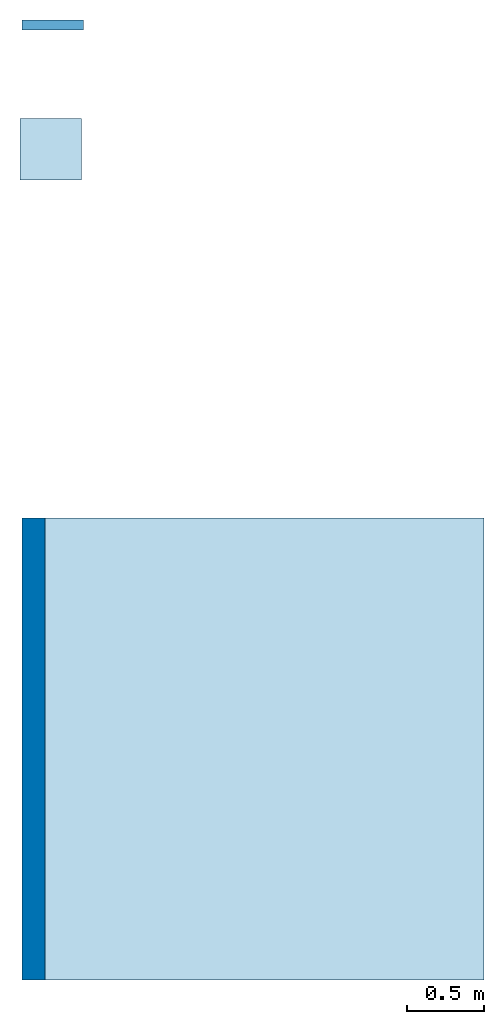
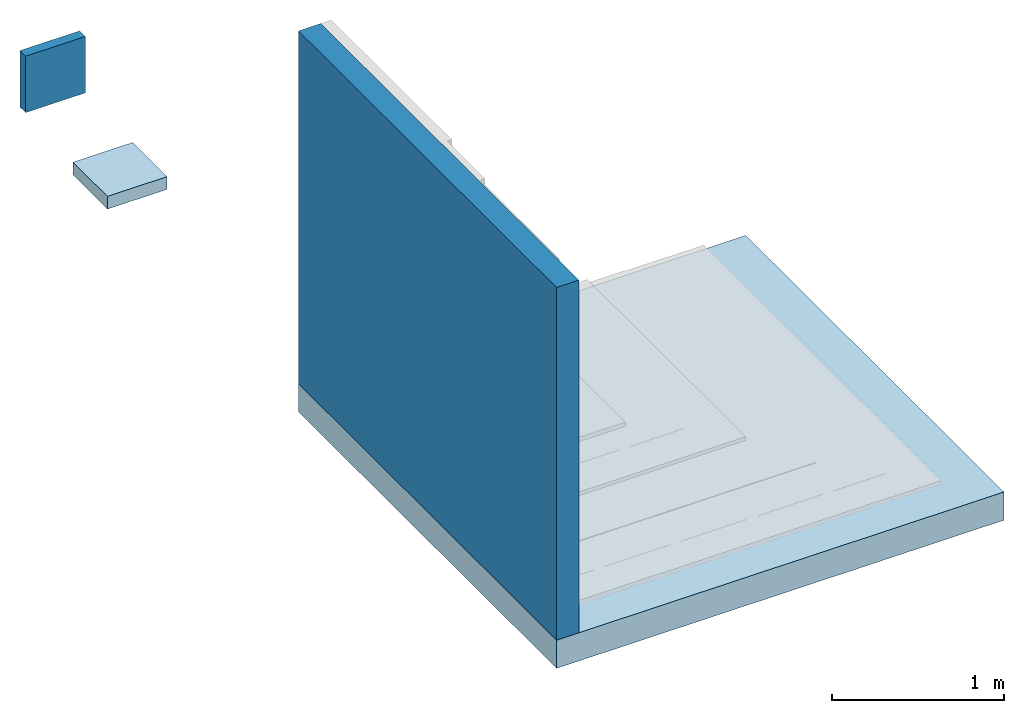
# One storey, part 1 of 2: 2 slabs, 2 walls.
"""IFC2X3 building model written with IfcOpenShell, lengths in metres."""

from ifc_helpers import new_model, entity, si_unit, converted_unit, derived_unit, direction, frame, frame_2d, origin, origin_2d_with_axis, place, context, subcontext, project, spatial, rectangle, extrude, material, layer, layer_set, layer_usage, type_object, element, save


model = new_model("IFC2X3")

# Units and contexts
model_context = context("Model", 3, precision=1e-05, world=origin(), true_north=direction((6.123031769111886e-17, 1.0)))
body_context = subcontext(model_context, "Body", "Model", "MODEL_VIEW")
ifc_project = project(units=[si_unit("LENGTHUNIT", "METRE"), si_unit("AREAUNIT", "SQUARE_METRE"), si_unit("VOLUMEUNIT", "CUBIC_METRE"), converted_unit("PLANEANGLEUNIT", "DEGREE", entity("IfcRatioMeasure", 0.017453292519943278), si_unit("PLANEANGLEUNIT", "RADIAN"), dimensions=[0, 0, 0, 0, 0, 0, 0]), si_unit("MASSUNIT", "GRAM", prefix="KILO"), derived_unit("MASSDENSITYUNIT", [(si_unit("MASSUNIT", "GRAM", prefix="KILO"), 1), (si_unit("LENGTHUNIT", "METRE"), -3)]), derived_unit("IONCONCENTRATIONUNIT", [(si_unit("MASSUNIT", "GRAM", prefix="KILO"), 1), (si_unit("LENGTHUNIT", "METRE"), -3)]), derived_unit("MOMENTOFINERTIAUNIT", [(si_unit("LENGTHUNIT", "METRE"), 4)]), si_unit("TIMEUNIT", "SECOND"), si_unit("FREQUENCYUNIT", "HERTZ"), si_unit("THERMODYNAMICTEMPERATUREUNIT", "DEGREE_CELSIUS"), derived_unit("THERMALTRANSMITTANCEUNIT", [(si_unit("MASSUNIT", "GRAM", prefix="KILO"), 1), (si_unit("THERMODYNAMICTEMPERATUREUNIT", "KELVIN"), -1), (si_unit("TIMEUNIT", "SECOND"), -3)]), derived_unit("THERMALCONDUCTANCEUNIT", [(si_unit("MASSUNIT", "GRAM", prefix="KILO"), 1), (si_unit("THERMODYNAMICTEMPERATUREUNIT", "KELVIN"), -1), (si_unit("TIMEUNIT", "SECOND"), -3), (si_unit("LENGTHUNIT", "METRE"), 1)]), derived_unit("VOLUMETRICFLOWRATEUNIT", [(si_unit("LENGTHUNIT", "METRE"), 3), (si_unit("TIMEUNIT", "SECOND"), -1)]), derived_unit("MASSFLOWRATEUNIT", [(si_unit("MASSUNIT", "GRAM", prefix="KILO"), 1), (si_unit("TIMEUNIT", "SECOND"), -1)]), derived_unit("ROTATIONALFREQUENCYUNIT", [(si_unit("TIMEUNIT", "SECOND"), -1)]), si_unit("ELECTRICCURRENTUNIT", "AMPERE"), si_unit("ELECTRICVOLTAGEUNIT", "VOLT"), si_unit("POWERUNIT", "WATT"), si_unit("FORCEUNIT", "NEWTON", prefix="KILO"), si_unit("ILLUMINANCEUNIT", "LUX"), si_unit("LUMINOUSFLUXUNIT", "LUMEN"), si_unit("LUMINOUSINTENSITYUNIT", "CANDELA"), derived_unit("USERDEFINED", [(si_unit("MASSUNIT", "GRAM", prefix="KILO"), -1), (si_unit("LENGTHUNIT", "METRE"), -2), (si_unit("TIMEUNIT", "SECOND"), 3), (si_unit("LUMINOUSFLUXUNIT", "LUMEN"), 1)]), derived_unit("USERDEFINED", [(si_unit("MASSUNIT", "GRAM", prefix="KILO"), 1), (si_unit("TIMEUNIT", "SECOND"), -3), (si_unit("LENGTHUNIT", "METRE"), 3), (si_unit("ELECTRICCURRENTUNIT", "AMPERE"), -2)]), derived_unit("SOUNDPOWERUNIT", [(si_unit("MASSUNIT", "GRAM", prefix="KILO"), 1), (si_unit("TIMEUNIT", "SECOND"), -3), (si_unit("LENGTHUNIT", "METRE"), 2)]), derived_unit("SOUNDPRESSUREUNIT", [(si_unit("MASSUNIT", "GRAM", prefix="KILO"), 1), (si_unit("LENGTHUNIT", "METRE"), -1), (si_unit("TIMEUNIT", "SECOND"), -2)]), derived_unit("LINEARVELOCITYUNIT", [(si_unit("LENGTHUNIT", "METRE"), 1), (si_unit("TIMEUNIT", "SECOND"), -1)]), si_unit("PRESSUREUNIT", "PASCAL"), derived_unit("USERDEFINED", [(si_unit("MASSUNIT", "GRAM", prefix="KILO"), 1), (si_unit("LENGTHUNIT", "METRE"), -2), (si_unit("TIMEUNIT", "SECOND"), -2)]), derived_unit("LINEARFORCEUNIT", [(si_unit("MASSUNIT", "GRAM", prefix="KILO"), 1), (si_unit("TIMEUNIT", "SECOND"), -2)]), derived_unit("PLANARFORCEUNIT", [(si_unit("MASSUNIT", "GRAM", prefix="KILO"), 1), (si_unit("LENGTHUNIT", "METRE"), -1), (si_unit("TIMEUNIT", "SECOND"), -2)]), derived_unit("SPECIFICHEATCAPACITYUNIT", [(si_unit("THERMODYNAMICTEMPERATUREUNIT", "KELVIN"), -1), (si_unit("LENGTHUNIT", "METRE"), 2), (si_unit("TIMEUNIT", "SECOND"), -2)]), derived_unit("HEATINGVALUEUNIT", [(si_unit("LENGTHUNIT", "METRE"), 2), (si_unit("TIMEUNIT", "SECOND"), -2)]), derived_unit("VAPORPERMEABILITYUNIT", [(si_unit("LENGTHUNIT", "METRE"), -1), (si_unit("TIMEUNIT", "SECOND"), 1)]), derived_unit("DYNAMICVISCOSITYUNIT", [(si_unit("MASSUNIT", "GRAM", prefix="KILO"), 1), (si_unit("TIMEUNIT", "SECOND"), -1), (si_unit("LENGTHUNIT", "METRE"), -1)]), derived_unit("THERMALEXPANSIONCOEFFICIENTUNIT", [(si_unit("THERMODYNAMICTEMPERATUREUNIT", "KELVIN"), -1)]), derived_unit("MODULUSOFELASTICITYUNIT", [(si_unit("MASSUNIT", "GRAM", prefix="KILO"), 1), (si_unit("LENGTHUNIT", "METRE"), -1), (si_unit("TIMEUNIT", "SECOND"), -2)]), derived_unit("ISOTHERMALMOISTURECAPACITYUNIT", [(si_unit("LENGTHUNIT", "METRE"), 3), (si_unit("MASSUNIT", "GRAM", prefix="KILO"), -1)]), derived_unit("MOISTUREDIFFUSIVITYUNIT", [(si_unit("TIMEUNIT", "SECOND"), -1), (si_unit("LENGTHUNIT", "METRE"), 2)])], contexts=[model_context])

# Site, building, storey
site_placement = place(None, origin())
site = spatial("IfcSite", under=ifc_project, at=site_placement, Name="Default", CompositionType="ELEMENT")
building_placement = place(site_placement, origin())
building = spatial("IfcBuilding", under=site, at=building_placement, CompositionType="ELEMENT")
storey_placement = place(building_placement, frame((0.0, 0.0, -0.0025237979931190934)))
storey = spatial("IfcBuildingStorey", under=building, at=storey_placement, Name="ARQ Térreo", CompositionType="ELEMENT", Elevation=-0.0025237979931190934)

# Slabs
ifc_material_1 = material(Name="#concreto")
ifc_layer_1 = layer(ifc_material_1, 0.2)
ifc_layer_set_1 = layer_set([ifc_layer_1], Name="Piso:Piso:LAJE CONCRETO")
ifc_layer_usage_1 = layer_usage(ifc_layer_set_1, "AXIS3", "POSITIVE", 0.0)
slab_type_1 = type_object("IfcSlabType", Name="Piso:Piso:LAJE CONCRETO", PredefinedType="FLOOR", material=ifc_layer_set_1)
slab_1_placement = place(storey_placement, origin())
element("IfcSlab", 1, at=slab_1_placement, inside=storey, type_object=slab_type_1, material=ifc_layer_usage_1, Name="Piso:Piso:LAJE CONCRETO", ObjectType="Piso:Piso:LAJE CONCRETO", PredefinedType="FLOOR", context=body_context, shape_type="SweptSolid", body=[
    extrude(rectangle(XDim=3.0000000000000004, YDim=3.0000000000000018, at=origin_2d_with_axis()), frame((0.9980295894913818, -1.354129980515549, 0.0), z_axis=(0.0, 0.0, -1.0), x_axis=(0.0, 1.0, 0.0)), (0.0, 0.0, 1.0), 0.2),
])
ifc_material_2 = material(Name="#proteção mecânica")
ifc_layer_2 = layer(ifc_material_2, 0.03)
ifc_material_3 = material(Name="#XPS")
ifc_layer_3 = layer(ifc_material_3, 0.025)
ifc_material_4 = material(Name="# Torodin 4mm - TIPO III - Classe A")
ifc_layer_4 = layer(ifc_material_4, 0.003999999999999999)
ifc_material_5 = material(Name="#Primer Adeflex")
ifc_layer_5 = layer(ifc_material_5, 0.0009999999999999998)
ifc_material_6 = material(Name="#argamassa")
ifc_layer_6 = layer(ifc_material_6, 0.03)
ifc_layer_set_2 = layer_set([ifc_layer_2, ifc_layer_3, ifc_layer_4, ifc_layer_5, ifc_layer_6], Name="Piso:IMPH_T4PP")
ifc_layer_usage_2 = layer_usage(ifc_layer_set_2, "AXIS3", "POSITIVE", 0.0)
slab_type_2 = type_object("IfcSlabType", Name="Piso:IMPH_T4PP", PredefinedType="FLOOR", material=ifc_layer_set_2)
slab_2_placement = place(storey_placement, origin())
element("IfcSlab", 2, at=slab_2_placement, inside=storey, type_object=slab_type_2, material=ifc_layer_usage_2, Name="Piso:IMPH_T4PP", ObjectType="Piso:IMPH_T4PP", PredefinedType="FLOOR", context=body_context, shape_type="SweptSolid", body=[
    extrude(rectangle(XDim=0.4, YDim=0.4, at=origin_2d_with_axis()), frame((-0.3145300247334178, 2.540929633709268, 0.0), z_axis=(0.0, 0.0, -1.0), x_axis=(0.0, 1.0, 0.0)), (0.0, 0.0, 1.0), 0.09),
])

# Walls
ifc_layer_7 = layer(ifc_material_1, 0.14999999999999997)
ifc_layer_set_3 = layer_set([ifc_layer_7], Name="Parede básica:Parede básica:Parede Concreto")
ifc_layer_usage_3 = layer_usage(ifc_layer_set_3, "AXIS2", "NEGATIVE", 0.07499999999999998)
wall_type_1 = type_object("IfcWallType", Name="Parede básica:Parede básica:Parede Concreto", PredefinedType="STANDARD", material=ifc_layer_set_3)
wall_1_placement = place(storey_placement, frame((-0.4269704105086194, 0.14587001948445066, 0.0), z_axis=(0.0, 0.0, 1.0), x_axis=(0.0, -1.0, 0.0)))
element("IfcWallStandardCase", 3, at=wall_1_placement, inside=storey, type_object=wall_type_1, material=ifc_layer_usage_3, Name="Parede básica:Parede Concreto", ObjectType="Parede básica:Parede Concreto", context=body_context, shape_type="SweptSolid", body=[
    extrude(rectangle(XDim=2.9999999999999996, YDim=0.15000000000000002, at=frame_2d((1.4999999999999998, 0.0), x_axis=(-1.0, 0.0))), origin(), (0.0, 0.0, 1.0), 2.4999999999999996),
])
ifc_layer_8 = layer(ifc_material_2, 0.03)
ifc_layer_9 = layer(ifc_material_3, 0.025)
ifc_material_7 = material(Name="#Vitkote Elastic")
ifc_layer_10 = layer(ifc_material_7, 0.0009999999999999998)
ifc_layer_11 = layer(ifc_material_6, 0.01)
ifc_layer_set_4 = layer_set([ifc_layer_8, ifc_layer_9, ifc_layer_10, ifc_layer_11], Name="Parede básica:IMPV_VITKOTE ELASTIC")
ifc_layer_usage_4 = layer_usage(ifc_layer_set_4, "AXIS2", "POSITIVE", -0.033)
wall_type_2 = type_object("IfcWallType", Name="Parede básica:IMPV_VITKOTE ELASTIC", PredefinedType="STANDARD", material=ifc_layer_set_4)
wall_2_placement = place(storey_placement, frame((-0.5019704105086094, 3.345870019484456, 0.0)))
element("IfcWallStandardCase", 4, at=wall_2_placement, inside=storey, type_object=wall_type_2, material=ifc_layer_usage_4, Name="Parede básica:IMPV_T4PP", ObjectType="Parede básica:IMPV_T4PP", context=body_context, shape_type="SweptSolid", body=[
    extrude(rectangle(XDim=0.4000000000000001, YDim=0.06600000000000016, at=frame_2d((0.20000000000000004, 1.249000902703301e-16), x_axis=(-1.0, 0.0))), origin(), (0.0, 0.0, 1.0), 0.4),
])

save(model, "model.ifc")
